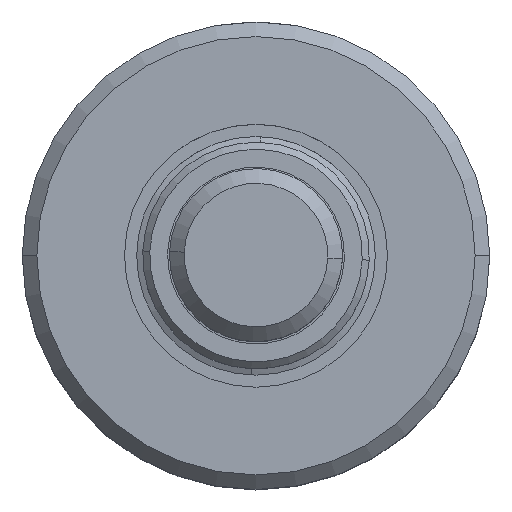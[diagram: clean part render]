
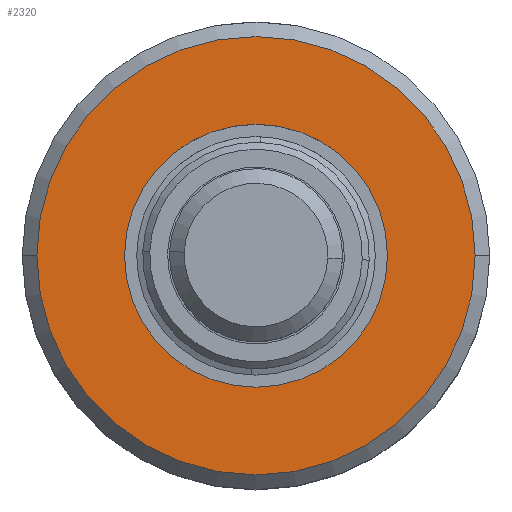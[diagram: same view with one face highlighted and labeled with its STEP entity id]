
A CAD part, top view. The second image highlights one B-rep face of the part: STEP entity #2320.
In plain terms, the highlighted planar face has unit normal (0, 0, 1).
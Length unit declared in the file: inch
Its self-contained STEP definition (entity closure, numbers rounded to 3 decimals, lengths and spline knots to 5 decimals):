
#32 = DIRECTION ( 'NONE',  ( -1., 0., 0. ) ) ;
#79 = DIRECTION ( 'NONE',  ( 0., 0., 1. ) ) ;
#94 = CIRCLE ( 'NONE', #380, 0.9375 ) ;
#116 = ORIENTED_EDGE ( 'NONE', *, *, #738, .F. ) ;
#161 = CARTESIAN_POINT ( 'NONE',  ( 0.09118, -0.05314, 0.62899 ) ) ;
#164 = EDGE_CURVE ( 'NONE', #1871, #2366, #1036, .T. ) ;
#306 = DIRECTION ( 'NONE',  ( 0., 0., -1. ) ) ;
#355 = AXIS2_PLACEMENT_3D ( 'NONE', #1347, #79, #1543 ) ;
#380 = AXIS2_PLACEMENT_3D ( 'NONE', #2497, #1301, #32 ) ;
#381 = DIRECTION ( 'NONE',  ( -1., 0., 0. ) ) ;
#722 = EDGE_CURVE ( 'NONE', #2409, #1269, #94, .T. ) ;
#738 = EDGE_CURVE ( 'NONE', #2366, #1871, #2634, .T. ) ;
#756 = ORIENTED_EDGE ( 'NONE', *, *, #164, .F. ) ;
#882 = ORIENTED_EDGE ( 'NONE', *, *, #722, .T. ) ;
#1036 = CIRCLE ( 'NONE', #2669, 0.5625 ) ;
#1151 = PLANE ( 'NONE',  #1880 ) ;
#1181 = ORIENTED_EDGE ( 'NONE', *, *, #2428, .T. ) ;
#1269 = VERTEX_POINT ( 'NONE', #1705 ) ;
#1301 = DIRECTION ( 'NONE',  ( 0., 0., 1. ) ) ;
#1305 = AXIS2_PLACEMENT_3D ( 'NONE', #161, #1617, #381 ) ;
#1347 = CARTESIAN_POINT ( 'NONE',  ( 0.09118, -0.05314, 0.62899 ) ) ;
#1540 = CARTESIAN_POINT ( 'NONE',  ( 0.09118, 0.50936, 0.62899 ) ) ;
#1543 = DIRECTION ( 'NONE',  ( 1., 0., 0. ) ) ;
#1617 = DIRECTION ( 'NONE',  ( 0., 0., 1. ) ) ;
#1705 = CARTESIAN_POINT ( 'NONE',  ( 1.02868, -0.05314, 0.62899 ) ) ;
#1748 = DIRECTION ( 'NONE',  ( -1., 0., 0. ) ) ;
#1768 = EDGE_LOOP ( 'NONE', ( #116, #756 ) ) ;
#1838 = EDGE_LOOP ( 'NONE', ( #882, #1181 ) ) ;
#1871 = VERTEX_POINT ( 'NONE', #2463 ) ;
#1880 = AXIS2_PLACEMENT_3D ( 'NONE', #1540, #306, #1748 ) ;
#1973 = CARTESIAN_POINT ( 'NONE',  ( 0.65368, -0.05314, 0.62899 ) ) ;
#2076 = CIRCLE ( 'NONE', #1305, 0.9375 ) ;
#2086 = DIRECTION ( 'NONE',  ( 1., 0., 0. ) ) ;
#2106 = DIRECTION ( 'NONE',  ( 0., 0., 1. ) ) ;
#2193 = CARTESIAN_POINT ( 'NONE',  ( -0.84632, -0.05314, 0.62899 ) ) ;
#2270 = FACE_BOUND ( 'NONE', #1768, .T. ) ;
#2294 = CARTESIAN_POINT ( 'NONE',  ( 0.09118, -0.05314, 0.62899 ) ) ;
#2320 = ADVANCED_FACE ( 'NONE', ( #2387, #2270 ), #1151, .F. ) ;
#2366 = VERTEX_POINT ( 'NONE', #1973 ) ;
#2387 = FACE_OUTER_BOUND ( 'NONE', #1838, .T. ) ;
#2409 = VERTEX_POINT ( 'NONE', #2193 ) ;
#2428 = EDGE_CURVE ( 'NONE', #1269, #2409, #2076, .T. ) ;
#2463 = CARTESIAN_POINT ( 'NONE',  ( -0.47132, -0.05314, 0.62899 ) ) ;
#2497 = CARTESIAN_POINT ( 'NONE',  ( 0.09118, -0.05314, 0.62899 ) ) ;
#2634 = CIRCLE ( 'NONE', #355, 0.5625 ) ;
#2669 = AXIS2_PLACEMENT_3D ( 'NONE', #2294, #2106, #2086 ) ;
